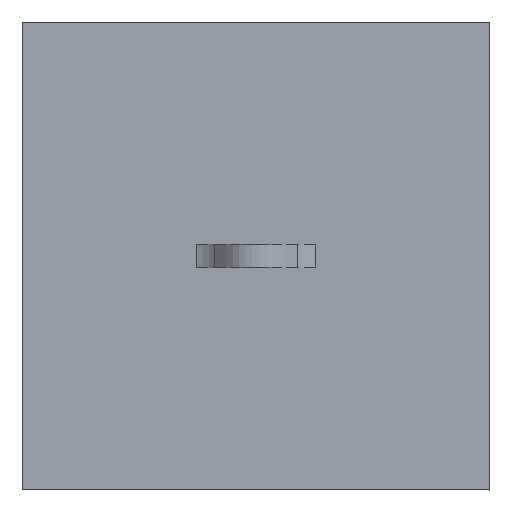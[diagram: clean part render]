
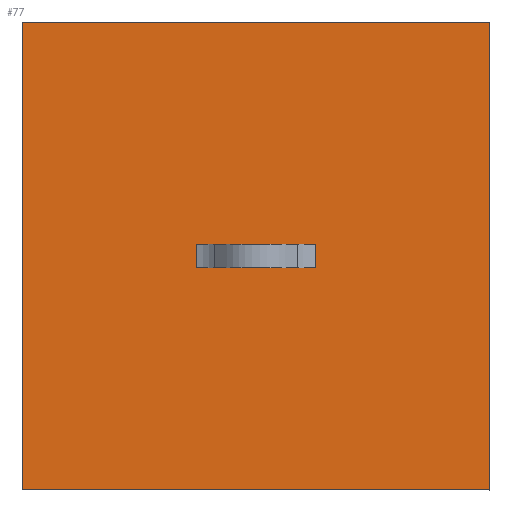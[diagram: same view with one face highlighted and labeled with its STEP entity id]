
A CAD part, top view. The second image highlights one B-rep face of the part: STEP entity #77.
In plain terms, the highlighted planar face has unit normal (0, 0, 1).
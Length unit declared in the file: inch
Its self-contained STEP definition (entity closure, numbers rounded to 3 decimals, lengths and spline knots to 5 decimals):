
#77=ADVANCED_FACE('',(#100,#101),#102,.F.);
#100=FACE_BOUND('',#142,.T.);
#101=FACE_OUTER_BOUND('',#143,.T.);
#102=PLANE('',#144);
#142=EDGE_LOOP('',(#194,#195,#196,#197));
#143=EDGE_LOOP('',(#198,#199,#200,#201));
#144=AXIS2_PLACEMENT_3D('',#202,#203,#204);
#194=ORIENTED_EDGE('',*,*,#351,.F.);
#195=ORIENTED_EDGE('',*,*,#352,.F.);
#196=ORIENTED_EDGE('',*,*,#353,.T.);
#197=ORIENTED_EDGE('',*,*,#354,.T.);
#198=ORIENTED_EDGE('',*,*,#345,.T.);
#199=ORIENTED_EDGE('',*,*,#355,.T.);
#200=ORIENTED_EDGE('',*,*,#356,.T.);
#201=ORIENTED_EDGE('',*,*,#348,.T.);
#202=CARTESIAN_POINT('',(-16.3125,-0.823,-0.877));
#203=DIRECTION('',(0.0,0.,-1.0));
#204=DIRECTION('',(0.0,1.0,0.));
#345=EDGE_CURVE('',#399,#396,#400,.T.);
#348=EDGE_CURVE('',#404,#399,#405,.T.);
#351=EDGE_CURVE('',#409,#410,#411,.T.);
#352=EDGE_CURVE('',#412,#409,#413,.T.);
#353=EDGE_CURVE('',#412,#414,#415,.T.);
#354=EDGE_CURVE('',#414,#410,#416,.T.);
#355=EDGE_CURVE('',#396,#417,#418,.T.);
#356=EDGE_CURVE('',#417,#404,#419,.T.);
#396=VERTEX_POINT('',#480);
#399=VERTEX_POINT('',#484);
#400=LINE('',#485,#486);
#404=VERTEX_POINT('',#492);
#405=LINE('',#493,#494);
#409=VERTEX_POINT('',#500);
#410=VERTEX_POINT('',#501);
#411=LINE('',#502,#503);
#412=VERTEX_POINT('',#504);
#413=LINE('',#505,#506);
#414=VERTEX_POINT('',#507);
#415=LINE('',#508,#509);
#416=LINE('',#510,#511);
#417=VERTEX_POINT('',#512);
#418=LINE('',#513,#514);
#419=LINE('',#515,#516);
#480=CARTESIAN_POINT('',(-3.0,-3.307,-0.877));
#484=CARTESIAN_POINT('',(-5.0,-3.307,-0.877));
#485=CARTESIAN_POINT('',(10379.02189,-3.307,-0.877));
#486=VECTOR('',#605,1.0);
#492=CARTESIAN_POINT('',(-5.0,-1.307,-0.877));
#493=CARTESIAN_POINT('',(-5.0,57151.28917,-0.877));
#494=VECTOR('',#608,1.0);
#500=CARTESIAN_POINT('',(-4.25488,-2.257,-0.877));
#501=CARTESIAN_POINT('',(-4.25488,-2.357,-0.877));
#502=CARTESIAN_POINT('',(-4.25488,-2.257,-0.877));
#503=VECTOR('',#611,0.1);
#504=CARTESIAN_POINT('',(-3.74512,-2.257,-0.877));
#505=CARTESIAN_POINT('',(-3.74512,-2.257,-0.877));
#506=VECTOR('',#612,0.50976);
#507=CARTESIAN_POINT('',(-3.74512,-2.357,-0.877));
#508=CARTESIAN_POINT('',(-3.74512,-2.257,-0.877));
#509=VECTOR('',#613,0.1);
#510=CARTESIAN_POINT('',(-3.74512,-2.357,-0.877));
#511=VECTOR('',#614,0.50976);
#512=CARTESIAN_POINT('',(-3.0,-1.307,-0.877));
#513=CARTESIAN_POINT('',(-3.0,12295.1837,-0.877));
#514=VECTOR('',#615,1.0);
#515=CARTESIAN_POINT('',(20008.56379,-1.307,-0.877));
#516=VECTOR('',#616,1.0);
#605=DIRECTION('',(1.0,0.0,0.0));
#608=DIRECTION('',(0.0,-1.0,0.));
#611=DIRECTION('',(0.0,-1.0,0.));
#612=DIRECTION('',(-1.0,0.0,0.0));
#613=DIRECTION('',(0.0,-1.0,0.));
#614=DIRECTION('',(-1.0,0.0,0.0));
#615=DIRECTION('',(0.0,1.0,0.));
#616=DIRECTION('',(-1.0,0.0,0.0));
